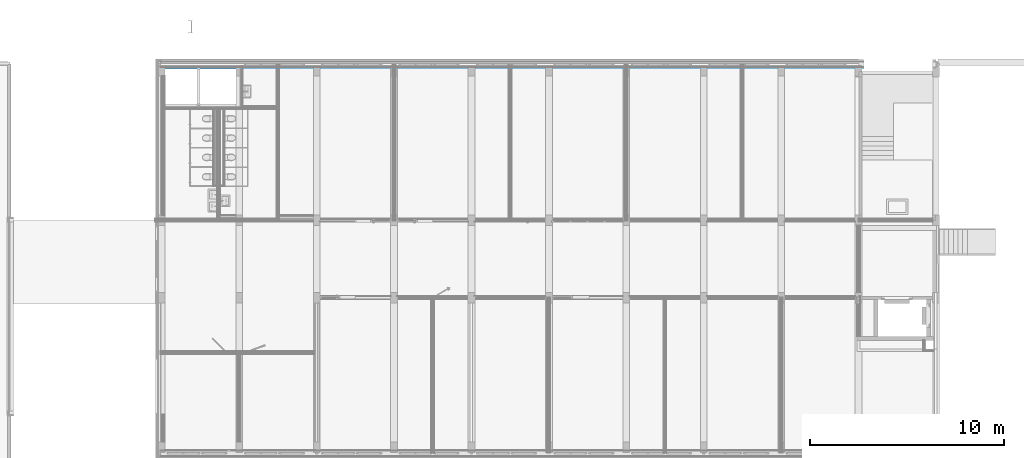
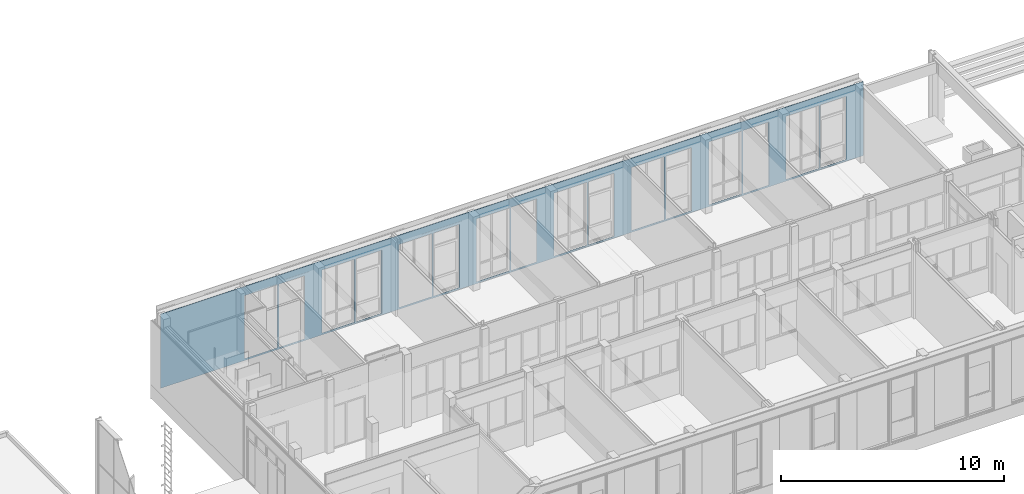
# One storey, part 34 of 54: 1 building element part, 16 openings, 1 element without a shape of its own.
"""IFC2X3 building model written with IfcOpenShell, lengths in millimetres."""

from ifc_helpers import new_model, entity, si_unit, converted_unit, derived_unit, money_unit, direction, frame, origin_with_axes, place, context, subcontext, project, spatial, faceted_brep, material, type_object, element, aggregate, save


model = new_model("IFC2X3")

# Units and contexts
model_context = context("Model", 3, precision=0.01, world=origin_with_axes(), true_north=direction((0.0, 1.0)))
body_context = subcontext(model_context, "Body", "Model", "MODEL_VIEW")
ifc_project = project(units=[si_unit("LENGTHUNIT", "METRE", prefix="MILLI"), si_unit("AREAUNIT", "SQUARE_METRE"), si_unit("VOLUMEUNIT", "CUBIC_METRE"), converted_unit("PLANEANGLEUNIT", "DEGREE", entity("IfcPlaneAngleMeasure", 0.0174532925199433), si_unit("PLANEANGLEUNIT", "RADIAN"), dimensions=[0, 0, 0, 0, 0, 0, 0]), money_unit("EUR"), converted_unit("TIMEUNIT", "Year", entity("IfcTimeMeasure", 31557600.0), si_unit("TIMEUNIT", "SECOND"), dimensions=[0, 0, 1, 0, 0, 0, 0]), si_unit("MASSUNIT", "GRAM", prefix="KILO"), si_unit("THERMODYNAMICTEMPERATUREUNIT", "DEGREE_CELSIUS"), si_unit("LUMINOUSINTENSITYUNIT", "LUMEN"), si_unit("ENERGYUNIT", "JOULE", prefix="MEGA"), derived_unit("THERMALCONDUCTANCEUNIT", [(si_unit("POWERUNIT", "WATT"), 1), (si_unit("LENGTHUNIT", "METRE"), -1), (si_unit("THERMODYNAMICTEMPERATUREUNIT", "KELVIN"), -1)]), derived_unit("SPECIFICHEATCAPACITYUNIT", [(si_unit("ENERGYUNIT", "JOULE"), 1), (si_unit("MASSUNIT", "GRAM", prefix="KILO"), -1), (si_unit("THERMODYNAMICTEMPERATUREUNIT", "KELVIN"), -1)]), derived_unit("MASSDENSITYUNIT", [(si_unit("MASSUNIT", "GRAM", prefix="KILO"), 1), (si_unit("VOLUMEUNIT", "CUBIC_METRE"), -1)])], contexts=[model_context])

# Site, building, storey
site_placement = place(None, origin_with_axes())
site = spatial("IfcSite", under=ifc_project, at=site_placement, Name="<site naam>", CompositionType="ELEMENT")
building_placement = place(site_placement, origin_with_axes())
building = spatial("IfcBuilding", under=site, at=building_placement, Name="<Naam gebouw>", CompositionType="ELEMENT")
storey_placement = place(building_placement, frame((0.0, 0.0, 8500.0), z_axis=(0.0, 0.0, 1.0), x_axis=(1.0, 0.0, 0.0)))
storey = spatial("IfcBuildingStorey", under=building, at=storey_placement, Name="02 2e verdieping", CompositionType="ELEMENT", Elevation=8500.0)

# Wall, openings, building element part
wall_type = type_object("IfcWallType", Name="HSB_285 gevelbeplating 420", PredefinedType="NOTDEFINED")
wall_placement = place(storey_placement, frame((48251.99999966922, 20297.99999999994, 0.0), z_axis=(0.0, 0.0, 1.0), x_axis=(-1.0, 0.0, 0.0)))
wall = element("IfcWall", 1, at=wall_placement, inside=storey, type_object=wall_type, Name="21_Binnenwand_HSB_285")
opening_1_placement = place(wall_placement, frame((1551.00001094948, 0.0, 99.99999999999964), z_axis=(0.0, 0.0, 1.0), x_axis=(1.0, 0.0, 0.0)))
element("IfcOpeningElement", 2, at=opening_1_placement, cuts=wall, Name="21_BU-A-22b sp_305", context=body_context, shape_type="Brep", body=[
    faceted_brep([(662.9999999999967, 213.000000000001, 3450.000000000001), (-662.9999999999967, 213.000000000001, 3450.000000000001), (-662.9999999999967, -1.000000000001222, 3450.000000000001), (662.9999999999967, -1.000000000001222, 3450.000000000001), (662.9999999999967, 421.000000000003, 3450.000000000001), (-662.9999999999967, 421.000000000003, 3450.000000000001), (-662.9999999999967, 213.000000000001, 0.0), (-662.9999999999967, -1.000000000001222, 0.0), (662.9999999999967, -1.000000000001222, 0.0), (662.9999999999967, 213.000000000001, 0.0), (662.9999999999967, 421.000000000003, 0.0), (-662.9999999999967, 421.000000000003, 0.0)], [[[0, 1, 2, 3]], [[1, 0, 4, 5]], [[1, 6, 7, 2]], [[2, 7, 8, 3]], [[9, 0, 3, 8]], [[0, 9, 10, 4]], [[4, 10, 11, 5]], [[6, 1, 5, 11]], [[6, 9, 8, 7]], [[9, 6, 11, 10]]]),
])
opening_2_placement = place(wall_placement, frame((3141.000024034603, 0.0, 99.99999999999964), z_axis=(0.0, 0.0, 1.0), x_axis=(1.0, 0.0, 0.0)))
element("IfcOpeningElement", 3, at=opening_2_placement, cuts=wall, Name="21_BU-A-22a sp_305", context=body_context, shape_type="Brep", body=[
    faceted_brep([(850.9999999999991, 213.000000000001, 3450.000000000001), (-850.9999999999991, 213.000000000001, 3450.000000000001), (-850.9999999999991, -1.000000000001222, 3450.000000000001), (850.9999999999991, -1.000000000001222, 3450.000000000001), (850.9999999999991, 421.000000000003, 3450.000000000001), (-850.9999999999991, 421.000000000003, 3450.000000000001), (-850.9999999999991, 213.000000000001, 0.0), (-850.9999999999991, -1.000000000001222, 0.0), (850.9999999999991, -1.000000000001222, 0.0), (850.9999999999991, 213.000000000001, 0.0), (850.9999999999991, 421.000000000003, 0.0), (-850.9999999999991, 421.000000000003, 0.0)], [[[0, 1, 2, 3]], [[1, 0, 4, 5]], [[1, 6, 7, 2]], [[2, 7, 8, 3]], [[9, 0, 3, 8]], [[0, 9, 10, 4]], [[4, 10, 11, 5]], [[6, 1, 5, 11]], [[6, 9, 8, 7]], [[9, 6, 11, 10]]]),
])
opening_3_placement = place(wall_placement, frame((7140.999999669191, 0.0, 99.99999999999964), z_axis=(0.0, 0.0, 1.0), x_axis=(1.0, 0.0, 0.0)))
element("IfcOpeningElement", 4, at=opening_3_placement, cuts=wall, Name="21_BU-A-22a sp_305", context=body_context, shape_type="Brep", body=[
    faceted_brep([(850.9999999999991, 213.000000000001, 3450.000000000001), (-850.9999999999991, 213.000000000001, 3450.000000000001), (-850.9999999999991, -1.000000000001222, 3450.000000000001), (850.9999999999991, -1.000000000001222, 3450.000000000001), (850.9999999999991, 421.000000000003, 3450.000000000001), (-850.9999999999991, 421.000000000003, 3450.000000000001), (-850.9999999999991, 213.000000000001, 0.0), (-850.9999999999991, -1.000000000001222, 0.0), (850.9999999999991, -1.000000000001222, 0.0), (850.9999999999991, 213.000000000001, 0.0), (850.9999999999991, 421.000000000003, 0.0), (-850.9999999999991, 421.000000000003, 0.0)], [[[0, 1, 2, 3]], [[1, 0, 4, 5]], [[1, 6, 7, 2]], [[2, 7, 8, 3]], [[9, 0, 3, 8]], [[0, 9, 10, 4]], [[4, 10, 11, 5]], [[6, 1, 5, 11]], [[6, 9, 8, 7]], [[9, 6, 11, 10]]]),
])
opening_4_placement = place(wall_placement, frame((11140.99999966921, 0.0, 99.99999999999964), z_axis=(0.0, 0.0, 1.0), x_axis=(1.0, 0.0, 0.0)))
element("IfcOpeningElement", 5, at=opening_4_placement, cuts=wall, Name="21_BU-A-22a sp_305", context=body_context, shape_type="Brep", body=[
    faceted_brep([(850.9999999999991, 213.000000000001, 3450.000000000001), (-850.9999999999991, 213.000000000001, 3450.000000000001), (-850.9999999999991, -1.000000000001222, 3450.000000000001), (850.9999999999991, -1.000000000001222, 3450.000000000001), (850.9999999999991, 421.000000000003, 3450.000000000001), (-850.9999999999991, 421.000000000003, 3450.000000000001), (-850.9999999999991, 213.000000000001, 0.0), (-850.9999999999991, -1.000000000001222, 0.0), (850.9999999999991, -1.000000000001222, 0.0), (850.9999999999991, 213.000000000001, 0.0), (850.9999999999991, 421.000000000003, 0.0), (-850.9999999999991, 421.000000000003, 0.0)], [[[0, 1, 2, 3]], [[1, 0, 4, 5]], [[1, 6, 7, 2]], [[2, 7, 8, 3]], [[9, 0, 3, 8]], [[0, 9, 10, 4]], [[4, 10, 11, 5]], [[6, 1, 5, 11]], [[6, 9, 8, 7]], [[9, 6, 11, 10]]]),
])
opening_5_placement = place(wall_placement, frame((9550.999999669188, 0.0, 99.99999999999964), z_axis=(0.0, 0.0, 1.0), x_axis=(1.0, 0.0, 0.0)))
element("IfcOpeningElement", 6, at=opening_5_placement, cuts=wall, Name="21_BU-A-22b sp_305", context=body_context, shape_type="Brep", body=[
    faceted_brep([(662.9999999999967, 213.000000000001, 3450.000000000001), (-662.9999999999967, 213.000000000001, 3450.000000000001), (-662.9999999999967, -1.000000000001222, 3450.000000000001), (662.9999999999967, -1.000000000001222, 3450.000000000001), (662.9999999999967, 421.000000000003, 3450.000000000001), (-662.9999999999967, 421.000000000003, 3450.000000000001), (-662.9999999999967, 213.000000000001, 0.0), (-662.9999999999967, -1.000000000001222, 0.0), (662.9999999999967, -1.000000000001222, 0.0), (662.9999999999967, 213.000000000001, 0.0), (662.9999999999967, 421.000000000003, 0.0), (-662.9999999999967, 421.000000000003, 0.0)], [[[0, 1, 2, 3]], [[1, 0, 4, 5]], [[1, 6, 7, 2]], [[2, 7, 8, 3]], [[9, 0, 3, 8]], [[0, 9, 10, 4]], [[4, 10, 11, 5]], [[6, 1, 5, 11]], [[6, 9, 8, 7]], [[9, 6, 11, 10]]]),
])
opening_6_placement = place(wall_placement, frame((5550.999999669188, 0.0, 99.99999999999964), z_axis=(0.0, 0.0, 1.0), x_axis=(1.0, 0.0, 0.0)))
element("IfcOpeningElement", 7, at=opening_6_placement, cuts=wall, Name="21_BU-A-22b sp_305", context=body_context, shape_type="Brep", body=[
    faceted_brep([(662.9999999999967, 213.000000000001, 3450.000000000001), (-662.9999999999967, 213.000000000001, 3450.000000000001), (-662.9999999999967, -1.000000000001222, 3450.000000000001), (662.9999999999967, -1.000000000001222, 3450.000000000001), (662.9999999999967, 421.000000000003, 3450.000000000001), (-662.9999999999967, 421.000000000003, 3450.000000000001), (-662.9999999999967, 213.000000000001, 0.0), (-662.9999999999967, -1.000000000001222, 0.0), (662.9999999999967, -1.000000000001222, 0.0), (662.9999999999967, 213.000000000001, 0.0), (662.9999999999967, 421.000000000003, 0.0), (-662.9999999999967, 421.000000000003, 0.0)], [[[0, 1, 2, 3]], [[1, 0, 4, 5]], [[1, 6, 7, 2]], [[2, 7, 8, 3]], [[9, 0, 3, 8]], [[0, 9, 10, 4]], [[4, 10, 11, 5]], [[6, 1, 5, 11]], [[6, 9, 8, 7]], [[9, 6, 11, 10]]]),
])
opening_7_placement = place(wall_placement, frame((13550.99999966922, 0.0, 99.99999999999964), z_axis=(0.0, 0.0, 1.0), x_axis=(1.0, 0.0, 0.0)))
element("IfcOpeningElement", 8, at=opening_7_placement, cuts=wall, Name="21_BU-A-22b sp_305", context=body_context, shape_type="Brep", body=[
    faceted_brep([(662.9999999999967, 213.000000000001, 3450.000000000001), (-662.9999999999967, 213.000000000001, 3450.000000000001), (-662.9999999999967, -1.000000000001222, 3450.000000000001), (662.9999999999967, -1.000000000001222, 3450.000000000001), (662.9999999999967, 421.000000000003, 3450.000000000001), (-662.9999999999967, 421.000000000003, 3450.000000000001), (-662.9999999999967, 213.000000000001, 0.0), (-662.9999999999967, -1.000000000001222, 0.0), (662.9999999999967, -1.000000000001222, 0.0), (662.9999999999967, 213.000000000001, 0.0), (662.9999999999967, 421.000000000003, 0.0), (-662.9999999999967, 421.000000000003, 0.0)], [[[0, 1, 2, 3]], [[1, 0, 4, 5]], [[1, 6, 7, 2]], [[2, 7, 8, 3]], [[9, 0, 3, 8]], [[0, 9, 10, 4]], [[4, 10, 11, 5]], [[6, 1, 5, 11]], [[6, 9, 8, 7]], [[9, 6, 11, 10]]]),
])
opening_8_placement = place(wall_placement, frame((19140.98053610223, 0.0, 99.99999999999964), z_axis=(0.0, 0.0, 1.0), x_axis=(1.0, 0.0, 0.0)))
element("IfcOpeningElement", 9, at=opening_8_placement, cuts=wall, Name="21_BU-A-22a sp_305", context=body_context, shape_type="Brep", body=[
    faceted_brep([(850.9999999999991, 212.9999999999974, 3450.000000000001), (-850.9999999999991, 212.9999999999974, 3450.000000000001), (-850.9999999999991, -1.000000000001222, 3450.000000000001), (850.9999999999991, -1.000000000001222, 3450.000000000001), (850.9999999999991, 421.000000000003, 3450.000000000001), (-850.9999999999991, 421.000000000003, 3450.000000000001), (-850.9999999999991, 212.9999999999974, 0.0), (-850.9999999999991, -1.000000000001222, 0.0), (850.9999999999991, -1.000000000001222, 0.0), (850.9999999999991, 212.9999999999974, 0.0), (850.9999999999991, 421.000000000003, 0.0), (-850.9999999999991, 421.000000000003, 0.0)], [[[0, 1, 2, 3]], [[1, 0, 4, 5]], [[1, 6, 7, 2]], [[2, 7, 8, 3]], [[9, 0, 3, 8]], [[0, 9, 10, 4]], [[4, 10, 11, 5]], [[6, 1, 5, 11]], [[6, 9, 8, 7]], [[9, 6, 11, 10]]]),
])
opening_9_placement = place(wall_placement, frame((17550.99999966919, 0.0, 99.99999999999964), z_axis=(0.0, 0.0, 1.0), x_axis=(1.0, 0.0, 0.0)))
element("IfcOpeningElement", 10, at=opening_9_placement, cuts=wall, Name="21_BU-A-22b sp_305", context=body_context, shape_type="Brep", body=[
    faceted_brep([(663.0000000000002, 212.9999999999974, 3450.000000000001), (-663.0000000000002, 212.9999999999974, 3450.000000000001), (-663.0000000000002, -1.000000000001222, 3450.000000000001), (663.0000000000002, -1.000000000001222, 3450.000000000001), (663.0000000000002, 421.000000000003, 3450.000000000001), (-663.0000000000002, 421.000000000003, 3450.000000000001), (-663.0000000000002, 212.9999999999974, 0.0), (-663.0000000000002, -1.000000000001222, 0.0), (663.0000000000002, -1.000000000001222, 0.0), (663.0000000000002, 212.9999999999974, 0.0), (663.0000000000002, 421.000000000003, 0.0), (-663.0000000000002, 421.000000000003, 0.0)], [[[0, 1, 2, 3]], [[1, 0, 4, 5]], [[1, 6, 7, 2]], [[2, 7, 8, 3]], [[9, 0, 3, 8]], [[0, 9, 10, 4]], [[4, 10, 11, 5]], [[6, 1, 5, 11]], [[6, 9, 8, 7]], [[9, 6, 11, 10]]]),
])
opening_10_placement = place(wall_placement, frame((23141.0125073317, 0.0, 99.99999999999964), z_axis=(0.0, 0.0, 1.0), x_axis=(1.0, 0.0, 0.0)))
element("IfcOpeningElement", 11, at=opening_10_placement, cuts=wall, Name="21_BU-A-22a sp_305", context=body_context, shape_type="Brep", body=[
    faceted_brep([(850.9999999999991, 212.9999999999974, 3450.000000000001), (-850.9999999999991, 212.9999999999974, 3450.000000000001), (-850.9999999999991, -1.000000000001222, 3450.000000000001), (850.9999999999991, -1.000000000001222, 3450.000000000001), (850.9999999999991, 421.000000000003, 3450.000000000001), (-850.9999999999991, 421.000000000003, 3450.000000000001), (-850.9999999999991, 212.9999999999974, 0.0), (-850.9999999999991, -1.000000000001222, 0.0), (850.9999999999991, -1.000000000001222, 0.0), (850.9999999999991, 212.9999999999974, 0.0), (850.9999999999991, 421.000000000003, 0.0), (-850.9999999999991, 421.000000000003, 0.0)], [[[0, 1, 2, 3]], [[1, 0, 4, 5]], [[1, 6, 7, 2]], [[2, 7, 8, 3]], [[9, 0, 3, 8]], [[0, 9, 10, 4]], [[4, 10, 11, 5]], [[6, 1, 5, 11]], [[6, 9, 8, 7]], [[9, 6, 11, 10]]]),
])
opening_11_placement = place(wall_placement, frame((27140.99995093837, 0.0, 99.99999999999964), z_axis=(0.0, 0.0, 1.0), x_axis=(1.0, 0.0, 0.0)))
element("IfcOpeningElement", 12, at=opening_11_placement, cuts=wall, Name="21_BU-A-22a sp_305", context=body_context, shape_type="Brep", body=[
    faceted_brep([(850.9999999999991, 212.9999999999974, 3450.000000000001), (-850.9999999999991, 212.9999999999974, 3450.000000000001), (-850.9999999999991, -1.000000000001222, 3450.000000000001), (850.9999999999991, -1.000000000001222, 3450.000000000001), (850.9999999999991, 421.000000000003, 3450.000000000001), (-850.9999999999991, 421.000000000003, 3450.000000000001), (-850.9999999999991, 212.9999999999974, 0.0), (-850.9999999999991, -1.000000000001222, 0.0), (850.9999999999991, -1.000000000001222, 0.0), (850.9999999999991, 212.9999999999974, 0.0), (850.9999999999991, 421.000000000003, 0.0), (-850.9999999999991, 421.000000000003, 0.0)], [[[0, 1, 2, 3]], [[1, 0, 4, 5]], [[1, 6, 7, 2]], [[2, 7, 8, 3]], [[9, 0, 3, 8]], [[0, 9, 10, 4]], [[4, 10, 11, 5]], [[6, 1, 5, 11]], [[6, 9, 8, 7]], [[9, 6, 11, 10]]]),
])
opening_12_placement = place(wall_placement, frame((21550.98053610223, 0.0, 99.99999999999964), z_axis=(0.0, 0.0, 1.0), x_axis=(1.0, 0.0, 0.0)))
element("IfcOpeningElement", 13, at=opening_12_placement, cuts=wall, Name="21_BU-A-22b sp_305", context=body_context, shape_type="Brep", body=[
    faceted_brep([(663.0000000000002, 212.9999999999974, 3450.000000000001), (-663.0000000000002, 212.9999999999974, 3450.000000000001), (-663.0000000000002, -1.000000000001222, 3450.000000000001), (663.0000000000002, -1.000000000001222, 3450.000000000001), (663.0000000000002, 421.000000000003, 3450.000000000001), (-663.0000000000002, 421.000000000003, 3450.000000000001), (-663.0000000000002, 212.9999999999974, 0.0), (-663.0000000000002, -1.000000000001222, 0.0), (663.0000000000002, -1.000000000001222, 0.0), (663.0000000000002, 212.9999999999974, 0.0), (663.0000000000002, 421.000000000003, 0.0), (-663.0000000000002, 421.000000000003, 0.0)], [[[0, 1, 2, 3]], [[1, 0, 4, 5]], [[1, 6, 7, 2]], [[2, 7, 8, 3]], [[9, 0, 3, 8]], [[0, 9, 10, 4]], [[4, 10, 11, 5]], [[6, 1, 5, 11]], [[6, 9, 8, 7]], [[9, 6, 11, 10]]]),
])
opening_13_placement = place(wall_placement, frame((25550.99999966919, 0.0, 99.99999999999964), z_axis=(0.0, 0.0, 1.0), x_axis=(1.0, 0.0, 0.0)))
element("IfcOpeningElement", 14, at=opening_13_placement, cuts=wall, Name="21_BU-A-22b sp_305", context=body_context, shape_type="Brep", body=[
    faceted_brep([(663.0000000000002, 212.9999999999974, 3450.000000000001), (-663.0000000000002, 212.9999999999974, 3450.000000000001), (-663.0000000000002, -1.000000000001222, 3450.000000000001), (663.0000000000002, -1.000000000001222, 3450.000000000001), (663.0000000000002, 421.000000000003, 3450.000000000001), (-663.0000000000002, 421.000000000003, 3450.000000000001), (-663.0000000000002, 212.9999999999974, 0.0), (-663.0000000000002, -1.000000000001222, 0.0), (663.0000000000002, -1.000000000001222, 0.0), (663.0000000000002, 212.9999999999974, 0.0), (663.0000000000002, 421.000000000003, 0.0), (-663.0000000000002, 421.000000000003, 0.0)], [[[0, 1, 2, 3]], [[1, 0, 4, 5]], [[1, 6, 7, 2]], [[2, 7, 8, 3]], [[9, 0, 3, 8]], [[0, 9, 10, 4]], [[4, 10, 11, 5]], [[6, 1, 5, 11]], [[6, 9, 8, 7]], [[9, 6, 11, 10]]]),
])
opening_14_placement = place(wall_placement, frame((29551.00001094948, 0.0, 99.99999999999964), z_axis=(0.0, 0.0, 1.0), x_axis=(1.0, 0.0, 0.0)))
element("IfcOpeningElement", 15, at=opening_14_placement, cuts=wall, Name="21_BU-A-22b sp_305", context=body_context, shape_type="Brep", body=[
    faceted_brep([(663.0000000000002, 212.9999999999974, 3450.000000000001), (-663.0000000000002, 212.9999999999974, 3450.000000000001), (-663.0000000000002, -1.000000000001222, 3450.000000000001), (663.0000000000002, -1.000000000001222, 3450.000000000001), (663.0000000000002, 421.000000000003, 3450.000000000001), (-663.0000000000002, 421.000000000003, 3450.000000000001), (-663.0000000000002, 212.9999999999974, 0.0), (-663.0000000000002, -1.000000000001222, 0.0), (663.0000000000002, -1.000000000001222, 0.0), (663.0000000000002, 212.9999999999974, 0.0), (663.0000000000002, 421.000000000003, 0.0), (-663.0000000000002, 421.000000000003, 0.0)], [[[0, 1, 2, 3]], [[1, 0, 4, 5]], [[1, 6, 7, 2]], [[2, 7, 8, 3]], [[9, 0, 3, 8]], [[0, 9, 10, 4]], [[4, 10, 11, 5]], [[6, 1, 5, 11]], [[6, 9, 8, 7]], [[9, 6, 11, 10]]]),
])
opening_15_placement = place(wall_placement, frame((15140.99998838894, 0.0, 99.99999999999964), z_axis=(0.0, 0.0, 1.0), x_axis=(1.0, 0.0, 0.0)))
element("IfcOpeningElement", 16, at=opening_15_placement, cuts=wall, Name="21_BU-A-22a sp_305", context=body_context, shape_type="Brep", body=[
    faceted_brep([(850.9999999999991, 212.9999999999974, 3450.000000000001), (-850.9999999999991, 212.9999999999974, 3450.000000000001), (-850.9999999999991, -1.000000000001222, 3450.000000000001), (850.9999999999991, -1.000000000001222, 3450.000000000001), (850.9999999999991, 421.000000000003, 3450.000000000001), (-850.9999999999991, 421.000000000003, 3450.000000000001), (-850.9999999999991, 212.9999999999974, 0.0), (-850.9999999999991, -1.000000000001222, 0.0), (850.9999999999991, -1.000000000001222, 0.0), (850.9999999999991, 212.9999999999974, 0.0), (850.9999999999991, 421.000000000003, 0.0), (-850.9999999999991, 421.000000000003, 0.0)], [[[0, 1, 2, 3]], [[1, 0, 4, 5]], [[1, 6, 7, 2]], [[2, 7, 8, 3]], [[9, 0, 3, 8]], [[0, 9, 10, 4]], [[4, 10, 11, 5]], [[6, 1, 5, 11]], [[6, 9, 8, 7]], [[9, 6, 11, 10]]]),
])
opening_16_placement = place(wall_placement, frame((31140.99993875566, 0.0, 99.99999999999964), z_axis=(0.0, 0.0, 1.0), x_axis=(1.0, 0.0, 0.0)))
element("IfcOpeningElement", 17, at=opening_16_placement, cuts=wall, Name="21_BU-A-22a sp_305", context=body_context, shape_type="Brep", body=[
    faceted_brep([(850.9999999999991, 212.9999999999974, 3450.000000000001), (-850.9999999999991, 212.9999999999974, 3450.000000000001), (-850.9999999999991, -1.000000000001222, 3450.000000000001), (850.9999999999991, -1.000000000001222, 3450.000000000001), (850.9999999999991, 421.000000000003, 3450.000000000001), (-850.9999999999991, 421.000000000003, 3450.000000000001), (-850.9999999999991, 212.9999999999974, 0.0), (-850.9999999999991, -1.000000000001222, 0.0), (850.9999999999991, -1.000000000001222, 0.0), (850.9999999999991, 212.9999999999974, 0.0), (850.9999999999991, 421.000000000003, 0.0), (-850.9999999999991, 421.000000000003, 0.0)], [[[0, 1, 2, 3]], [[1, 0, 4, 5]], [[1, 6, 7, 2]], [[2, 7, 8, 3]], [[9, 0, 3, 8]], [[0, 9, 10, 4]], [[4, 10, 11, 5]], [[6, 1, 5, 11]], [[6, 9, 8, 7]], [[9, 6, 11, 10]]]),
])
ifc_material = material(Name="hout_OSB")
building_element_part_placement = place(wall_placement, origin_with_axes())
building_element_part = element("IfcBuildingElementPart", 18, at=building_element_part_placement, material=ifc_material, Name="hout_OSB", context=body_context, shape_type="Brep", body=[
    faceted_brep([(36316.99999966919, 392.4999999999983, 4050.000014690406), (0.0, 392.5000000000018, 4050.000014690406), (0.0, 392.4999999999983, 0.0), (18327.08564309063, 392.4999999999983, 0.0), (18327.08564309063, 392.5000000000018, 3.000000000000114), (20076.99989770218, 392.4999999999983, 3.000000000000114), (20076.99989770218, 392.4999999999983, 0.0), (20416.3664353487, 392.4999999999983, 0.0), (20416.3664353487, 392.5000000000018, 3.000000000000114), (24076.98066486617, 392.4999999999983, 3.000000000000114), (24076.98066486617, 392.4999999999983, 0.0), (30327.06167473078, 392.4999999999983, 0.0), (30327.06167473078, 392.4999999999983, 3.000000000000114), (32076.99999966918, 392.4999999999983, 3.000000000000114), (32076.99999966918, 392.4999999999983, 0.0), (36316.99999966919, 392.4999999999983, 0.0), (28077.00001322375, 392.4999999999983, 22.99999999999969), (28077.00001322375, 392.4999999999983, 19.99999999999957), (24427.00024742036, 392.4999999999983, 19.99999999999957), (24427.00024742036, 392.4999999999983, 22.99999999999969), (30176.89930735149, 392.4999999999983, 22.99999999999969), (30176.89930735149, 392.4999999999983, 19.99999999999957), (28426.99990475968, 392.4999999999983, 19.99999999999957), (28426.99990475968, 392.4999999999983, 22.99999999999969), (16076.99992410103, 392.4999999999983, 22.99999999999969), (16076.99992410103, 392.5000000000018, 19.99999999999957), (12426.99986413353, 392.4999999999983, 19.99999999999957), (12426.99986413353, 392.5000000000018, 22.99999999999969), (18177.0017732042, 392.4999999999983, 22.99999999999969), (18177.0017732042, 392.5000000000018, 19.99999999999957), (16426.99993474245, 392.4999999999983, 19.99999999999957), (16426.99993474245, 392.5000000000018, 22.99999999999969), (8076.999903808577, 392.5000000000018, 22.99999999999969), (8076.999903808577, 392.5000000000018, 19.99999999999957), (6327.003855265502, 392.5000000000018, 19.99999999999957), (6327.003855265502, 392.5000000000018, 22.99999999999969), (12076.99998374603, 392.4999999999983, 22.99999999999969), (12076.99998374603, 392.5000000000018, 19.99999999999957), (8425.679569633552, 392.5000000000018, 19.99999999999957), (8425.679569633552, 392.5000000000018, 22.99999999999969), (4077.000002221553, 392.5000000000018, 22.99999999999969), (4077.000002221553, 392.5000000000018, 19.99999999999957), (427.0000166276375, 392.5000000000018, 19.99999999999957), (427.0000166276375, 392.5000000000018, 22.99999999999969), (6177.187748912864, 392.5000000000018, 22.99999999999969), (6177.187748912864, 392.5000000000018, 19.99999999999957), (4427.000000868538, 392.5000000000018, 19.99999999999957), (4427.000000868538, 392.5000000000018, 22.99999999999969), (0.0, 407.4999999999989, 4050.000014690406), (36316.99999966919, 407.4999999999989, 4050.000014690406), (0.0, 407.4999999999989, 0.0), (18327.08564309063, 407.4999999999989, 0.0), (18327.08564309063, 407.5000000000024, 3.000000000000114), (20076.99989770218, 407.4999999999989, 3.000000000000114), (20076.99989770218, 407.4999999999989, 0.0), (20416.3664353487, 407.4999999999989, 0.0), (20416.3664353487, 407.5000000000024, 3.000000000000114), (24076.98066486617, 407.4999999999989, 3.000000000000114), (24076.98066486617, 407.4999999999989, 0.0), (30327.06167473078, 407.4999999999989, 0.0), (30327.06167473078, 407.4999999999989, 3.000000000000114), (32076.99999966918, 407.4999999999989, 3.000000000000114), (32076.99999966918, 407.4999999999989, 0.0), (36316.99999966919, 407.4999999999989, 0.0), (28077.00001322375, 407.4999999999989, 19.99999999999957), (28077.00001322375, 407.4999999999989, 22.99999999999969), (24427.00024742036, 407.4999999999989, 19.99999999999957), (24427.00024742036, 407.4999999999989, 22.99999999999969), (30176.89930735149, 407.4999999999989, 19.99999999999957), (30176.89930735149, 407.4999999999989, 22.99999999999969), (28426.99990475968, 407.4999999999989, 19.99999999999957), (28426.99990475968, 407.4999999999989, 22.99999999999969), (16076.99992410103, 407.5000000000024, 19.99999999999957), (16076.99992410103, 407.4999999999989, 22.99999999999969), (12426.99986413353, 407.4999999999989, 19.99999999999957), (12426.99986413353, 407.5000000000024, 22.99999999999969), (18177.0017732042, 407.5000000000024, 19.99999999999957), (18177.0017732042, 407.4999999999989, 22.99999999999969), (16426.99993474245, 407.4999999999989, 19.99999999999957), (16426.99993474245, 407.5000000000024, 22.99999999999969), (8076.999903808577, 407.5000000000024, 19.99999999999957), (8076.999903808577, 407.5000000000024, 22.99999999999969), (6327.003855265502, 407.5000000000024, 19.99999999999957), (6327.003855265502, 407.5000000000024, 22.99999999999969), (12076.99998374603, 407.5000000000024, 19.99999999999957), (12076.99998374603, 407.4999999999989, 22.99999999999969), (8425.679569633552, 407.5000000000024, 19.99999999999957), (8425.679569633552, 407.5000000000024, 22.99999999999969), (4077.000002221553, 407.5000000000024, 19.99999999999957), (4077.000002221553, 407.5000000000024, 22.99999999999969), (427.0000168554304, 407.5000000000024, 19.99999999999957), (427.0000168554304, 407.5000000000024, 22.99999999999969), (6177.187748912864, 407.5000000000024, 19.99999999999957), (6177.187748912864, 407.5000000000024, 22.99999999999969), (4427.000000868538, 407.5000000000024, 19.99999999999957), (4427.000000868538, 407.5000000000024, 22.99999999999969)], [[[0, 1, 2, 3, 4, 5, 6, 7, 8, 9, 10, 11, 12, 13, 14, 15], [16, 17, 18, 19], [20, 21, 22, 23], [24, 25, 26, 27], [28, 29, 30, 31], [32, 33, 34, 35], [36, 37, 38, 39], [40, 41, 42, 43], [44, 45, 46, 47]], [[48, 1, 0, 49]], [[1, 48, 50, 2]], [[50, 51, 3, 2]], [[52, 4, 3, 51]], [[53, 5, 4, 52]], [[54, 6, 5, 53]], [[54, 55, 7, 6]], [[56, 8, 7, 55]], [[57, 9, 8, 56]], [[58, 10, 9, 57]], [[11, 10, 58, 59]], [[60, 12, 11, 59]], [[61, 13, 12, 60]], [[62, 14, 13, 61]], [[15, 14, 62, 63]], [[49, 0, 15, 63]], [[64, 17, 16, 65]], [[66, 18, 17, 64]], [[67, 19, 18, 66]], [[65, 16, 19, 67]], [[68, 21, 20, 69]], [[70, 22, 21, 68]], [[71, 23, 22, 70]], [[69, 20, 23, 71]], [[72, 25, 24, 73]], [[74, 26, 25, 72]], [[75, 27, 26, 74]], [[73, 24, 27, 75]], [[76, 29, 28, 77]], [[78, 30, 29, 76]], [[79, 31, 30, 78]], [[77, 28, 31, 79]], [[80, 33, 32, 81]], [[82, 34, 33, 80]], [[83, 35, 34, 82]], [[81, 32, 35, 83]], [[84, 37, 36, 85]], [[86, 38, 37, 84]], [[87, 39, 38, 86]], [[85, 36, 39, 87]], [[88, 41, 40, 89]], [[90, 42, 41, 88]], [[91, 43, 42, 90]], [[89, 40, 43, 91]], [[92, 45, 44, 93]], [[94, 46, 45, 92]], [[95, 47, 46, 94]], [[93, 44, 47, 95]], [[48, 49, 63, 62, 61, 60, 59, 58, 57, 56, 55, 54, 53, 52, 51, 50], [66, 64, 65, 67], [70, 68, 69, 71], [74, 72, 73, 75], [78, 76, 77, 79], [82, 80, 81, 83], [86, 84, 85, 87], [90, 88, 89, 91], [94, 92, 93, 95]]]),
])
aggregate(wall, [building_element_part])

save(model, "model.ifc")
